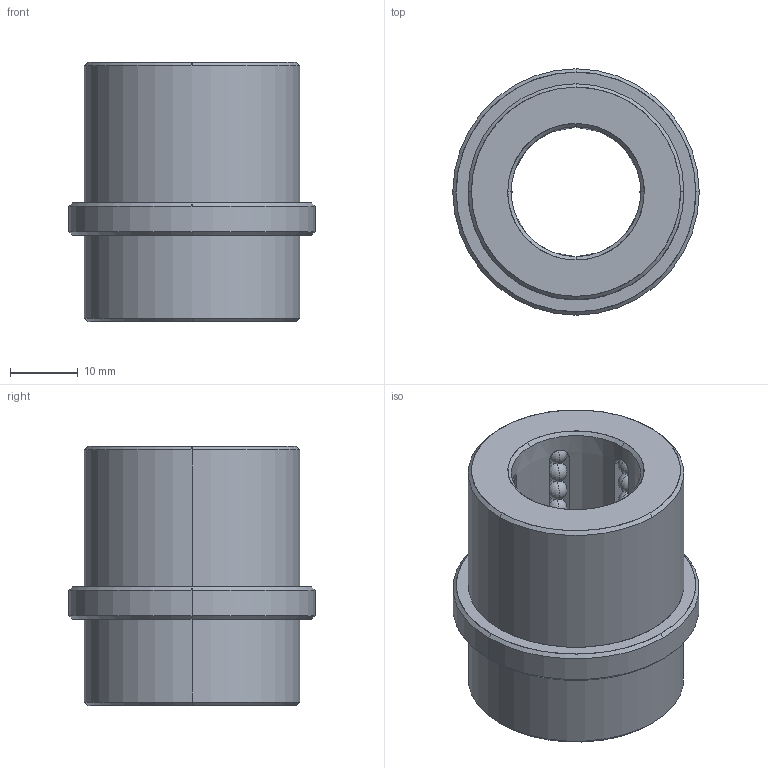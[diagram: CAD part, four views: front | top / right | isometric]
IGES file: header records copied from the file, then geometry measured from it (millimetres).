
Start section: START RECORD GO HERE.
Global section: file name: BGEB0750.igs; native system: DASSAULT SYSTEMES CATIA V5 R20 - www.3ds.com; preprocessor: CATIA Version 5 Release 20 ; author: Utente; organization: NB04-ASUS; date: 20200419.195619; units: millimetre
Bounding box: 36.25 x 36.25 x 38.1 mm (x, y, z)
Surface area: 10382.3 mm2 (no closed solid volume)
Topology: 0 solids, 0 shells, 306 faces, 1284 edges, 804 vertices
Faces by surface type: revolution 284, plane 22
